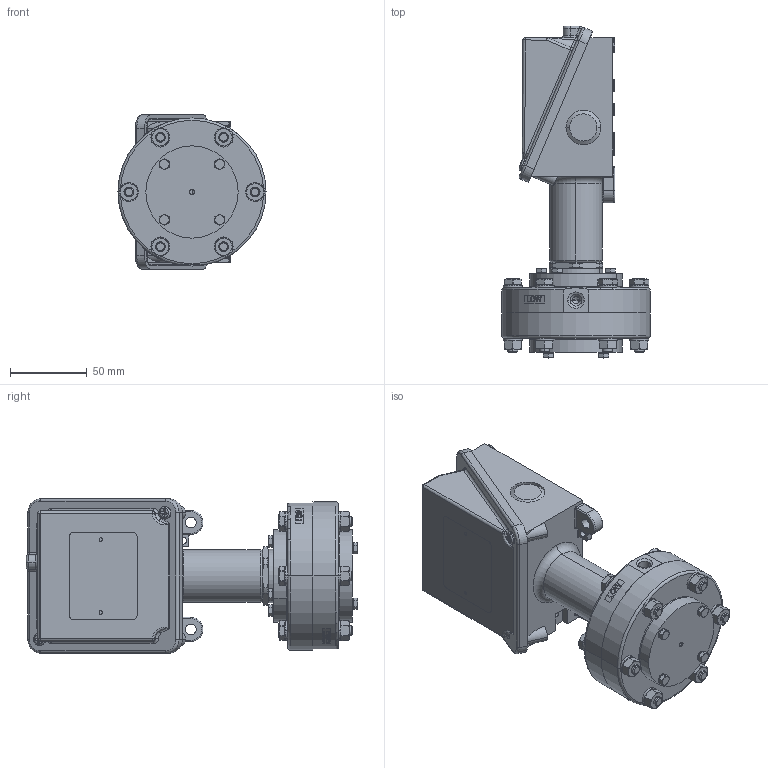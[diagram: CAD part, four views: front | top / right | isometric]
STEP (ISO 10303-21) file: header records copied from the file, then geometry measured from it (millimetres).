
FILE_DESCRIPTION (( 'STEP AP214' ), '1' );
FILE_NAME ('H100K-544_548_V1.STEP', '2025-02-21T19:35:51', ( '' ), ( '' ), 'SwSTEP 2.0', 'SolidWorks 2023', '' );
FILE_SCHEMA (( 'AUTOMOTIVE_DESIGN' ));
Length unit declared in the file: inch
Products named in the file (1): H100K-544_548_V1
Bounding box: 96.77 x 216.86 x 100.84 mm (x, y, z)
Volume: 457575.7 mm3; surface area: 196977.5 mm2
Topology: 60 solids, 60 shells, 1999 faces, 4725 edges, 2825 vertices
Faces by surface type: cylinder 724, plane 583, torus 223, cone 214, sphere 180, bspline 75
Entity records: 61964 total; most frequent: CARTESIAN_POINT 15957, DIRECTION 9974, ORIENTED_EDGE 9034, EDGE_CURVE 4517, AXIS2_PLACEMENT_3D 4084, VERTEX_POINT 2777, EDGE_LOOP 2240, CIRCLE 2159
